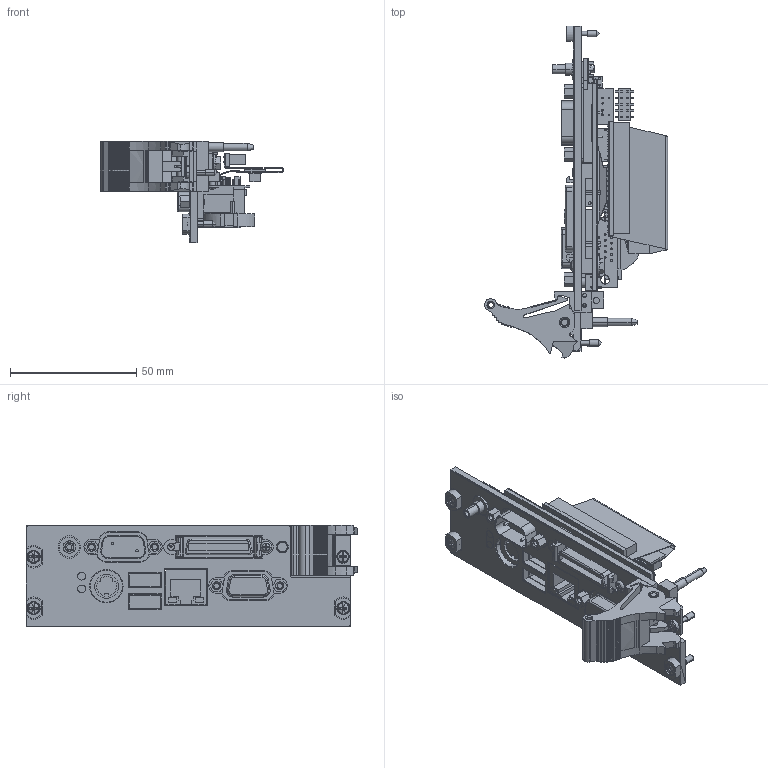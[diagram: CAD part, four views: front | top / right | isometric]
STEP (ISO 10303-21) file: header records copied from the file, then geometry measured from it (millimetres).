
FILE_DESCRIPTION((''),'2;1');
FILE_NAME('CD_PXI-8183','2008-03-10T',('fgomila'),(''),'PRO/ENGINEER BY PARAMETRIC TECHNOLOGY CORPORATION, 2006080','PRO/ENGINEER BY PARAMETRIC TECHNOLOGY CORPORATION, 2006080','');
FILE_SCHEMA(('CONFIG_CONTROL_DESIGN'));
Products named in the file (1): CD_PXI-8183
Bounding box: 72.56 x 131.52 x 40.28 mm (x, y, z)
Volume: 42533.2 mm3; surface area: 46963.2 mm2
Topology: 11 solids, 12 shells, 4197 faces, 11432 edges, 7370 vertices
Faces by surface type: plane 3001, cylinder 975, cone 89, bspline 74, torus 38, sphere 16, extrusion 4
Entity records: 144968 total; most frequent: CARTESIAN_POINT 37045, ORIENTED_EDGE 22696, DIRECTION 21542, EDGE_CURVE 11348, VECTOR 8738, LINE 8734, VERTEX_POINT 7413, AXIS2_PLACEMENT_3D 6402
